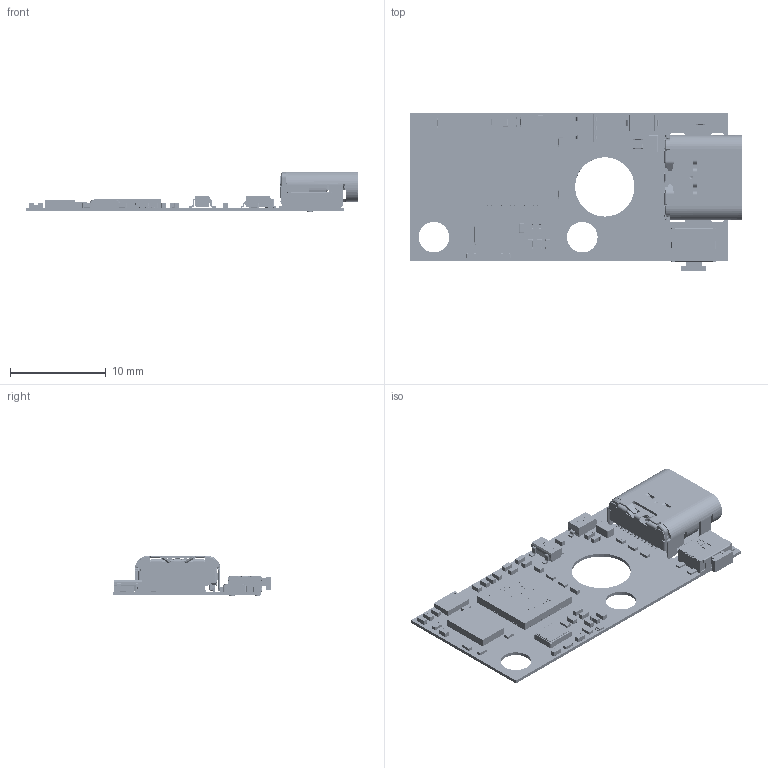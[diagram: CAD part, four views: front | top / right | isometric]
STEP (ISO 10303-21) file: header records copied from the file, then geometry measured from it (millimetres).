
FILE_DESCRIPTION(('Open CASCADE Model'),'2;1');
FILE_NAME('Open CASCADE Shape Model','2023-08-04T18:32:00',('Author'),( 'Open CASCADE'),'Open CASCADE STEP processor 6.8','Open CASCADE 6.8' ,'Unknown');
FILE_SCHEMA(('AUTOMOTIVE_DESIGN { 1 0 10303 214 1 1 1 1 }'));
Length unit declared in the file: millimetre
Products named in the file (97): PCB; Board; U4; 1408038528; Extruded; F1; 1317491312; Terminal; Open_CASCADE_STEP_translator_6.8_1.1.1; Open_CASCADE_STEP_translator_6.8_1.1.2; Mid_Body; Open_CASCADE_STEP_translator_6.8_1.2.1; USB1; USB-C; C_MOLDING_ASM_SW0002; UNDER-CONTACT_SW0001; REAR_SHIELD; PRT0002; D1; SOD-123; U3; 1317488880; Open_CASCADE_STEP_translator_6.8_3.1; Body; Open_CASCADE_STEP_translator_6.8_3.2.1; Pin_Shape; Open_CASCADE_STEP_translator_6.8_3.3.1; R15; R_0402; LOGO?; R14; R13; R12; R5; R3; R2; R1; C24; C_0402; C12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
Assembly tree (140 placements, depth 5):
  PCB
    Board
    U4
      1408038528
        Extruded
    F1
      1317491312
        Terminal
          Open_CASCADE_STEP_translator_6.8_1.1.1
          Open_CASCADE_STEP_translator_6.8_1.1.2
        Mid_Body
          Open_CASCADE_STEP_translator_6.8_1.2.1
    USB1
      USB-C
        C_MOLDING_ASM_SW0002
        UNDER-CONTACT_SW0001
        REAR_SHIELD
        PRT0002
    D1
      SOD-123
    U3
      1317488880
        Open_CASCADE_STEP_translator_6.8_3.1
        Body
          Open_CASCADE_STEP_translator_6.8_3.2.1
        Pin_Shape  x8
          Open_CASCADE_STEP_translator_6.8_3.3.1
    R15
      R_0402
        R_0402
        LOGO?
    R14
      R_0402
        R_0402
        LOGO?
    R13
      R_0402
        R_0402
        LOGO?
    R12
      R_0402
        R_0402
        LOGO?
    R5
      R_0402
        R_0402
        LOGO?
    R3
      R_0402
        R_0402
        LOGO?
    R2
      R_0402
        R_0402
        LOGO?
    R1
      R_0402
        R_0402
        LOGO?
    C24
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Bounding box: 34.68 x 16.56 x 4.26 mm (x, y, z)
Volume: 407 mm3; surface area: 2228.2 mm2
Topology: 735 solids, 739 shells, 13117 faces, 33090 edges, 21536 vertices
Faces by surface type: plane 8322, bspline 2386, cylinder 2151, sphere 216, cone 20, torus 20, extrusion 2
Full cylindrical faces by diameter (mm): 0.263 x1, 0.7 x2, 3.2 x2, 6.2 x1
Entity records: 553470 total; most frequent: CARTESIAN_POINT 244925, DIRECTION 51559, VECTOR 35138, LINE 35136, ORIENTED_EDGE 31571, PCURVE 31571, DEFINITIONAL_REPRESENTATION 31571, EDGE_CURVE 15786
